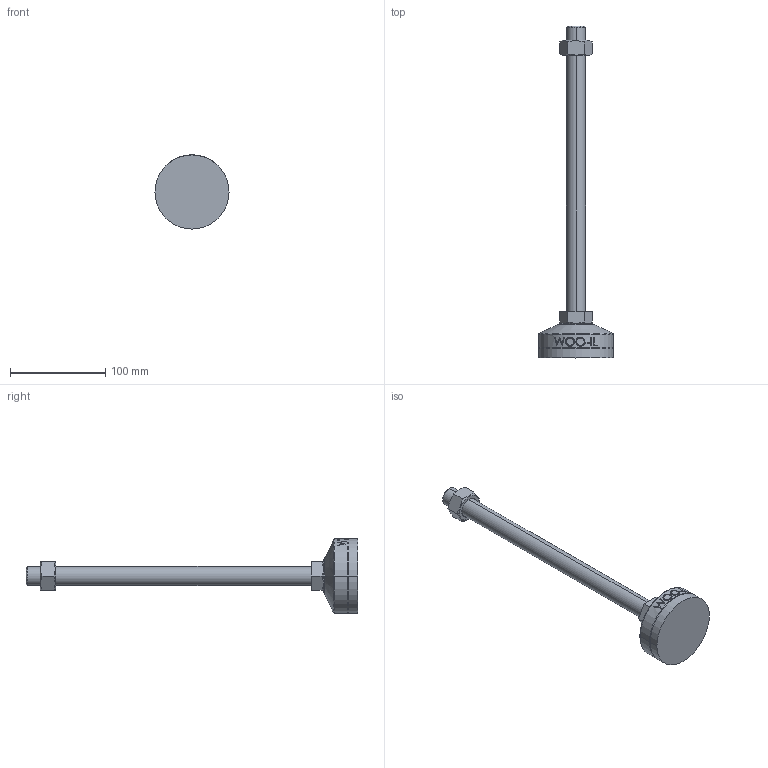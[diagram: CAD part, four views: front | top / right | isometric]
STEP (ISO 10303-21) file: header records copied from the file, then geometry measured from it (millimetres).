
FILE_DESCRIPTION (( 'STEP AP214' ), '1' );
FILE_NAME ('MFZR78-M20-300.step', '2021-03-29T06:58:58', ( '' ), ( '' ), 'SwSTEP 2.0', 'SolidWorks 2019', '' );
FILE_SCHEMA (( 'AUTOMOTIVE_DESIGN' ));
Length unit declared in the file: millimetre
Products named in the file (2): MFZR78-M20-300
Bounding box: 78 x 349 x 78 mm (x, y, z)
Volume: 260684.7 mm3; surface area: 41733.7 mm2
Topology: 3 solids, 3 shells, 102 faces, 235 edges, 150 vertices
Faces by surface type: plane 48, cylinder 18, bspline 16, cone 14, torus 6
Entity records: 4492 total; most frequent: CARTESIAN_POINT 2237, ORIENTED_EDGE 470, DIRECTION 415, EDGE_CURVE 235, AXIS2_PLACEMENT_3D 158, VERTEX_POINT 150, EDGE_LOOP 115, FACE_OUTER_BOUND 102
